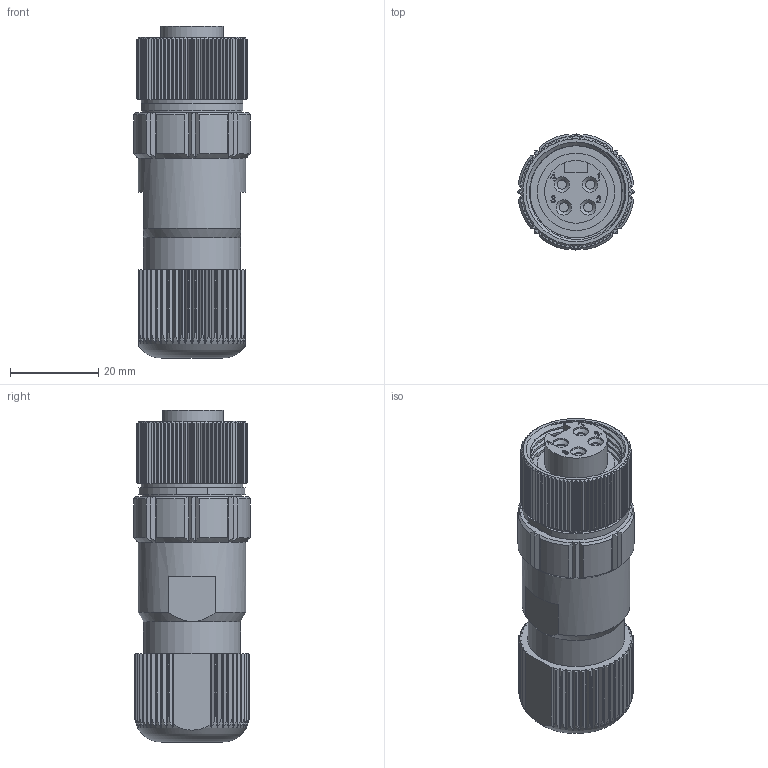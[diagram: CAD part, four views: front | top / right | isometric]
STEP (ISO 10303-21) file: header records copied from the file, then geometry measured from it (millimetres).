
FILE_DESCRIPTION (( 'STEP AP203' ), '1' );
FILE_NAME ('CM03-P4S(R1).STEP', '2022-04-07T03:37:40', ( '' ), ( '' ), 'SwSTEP 2.0', 'SolidWorks 2018', '' );
FILE_SCHEMA (( 'CONFIG_CONTROL_DESIGN' ));
Length unit declared in the file: millimetre
Products named in the file (1): CM03-P4S(R1)
Bounding box: 26.4 x 26.4 x 75.1 mm (x, y, z)
Volume: 24881.5 mm3; surface area: 11202.1 mm2
Topology: 1 solids, 1 shells, 1051 faces, 3069 edges, 2042 vertices
Faces by surface type: cylinder 514, plane 347, cone 145, bspline 43, torus 2
Full cylindrical faces by diameter (mm): 2.1 x4, 3.5 x4, 12 x1, 12.5 x1, 12.7 x1, 13 x1, 17.5 x1, 18.4 x1, 21.95 x1, 22.6 x1, 22.7 x1, 22.9 x1, 24.4 x1
Entity records: 38251 total; most frequent: CARTESIAN_POINT 12547, ORIENTED_EDGE 6060, DIRECTION 4374, EDGE_CURVE 3030, VERTEX_POINT 2033, AXIS2_PLACEMENT_3D 1579, B_SPLINE_CURVE_WITH_KNOTS 1240, VECTOR 1216
